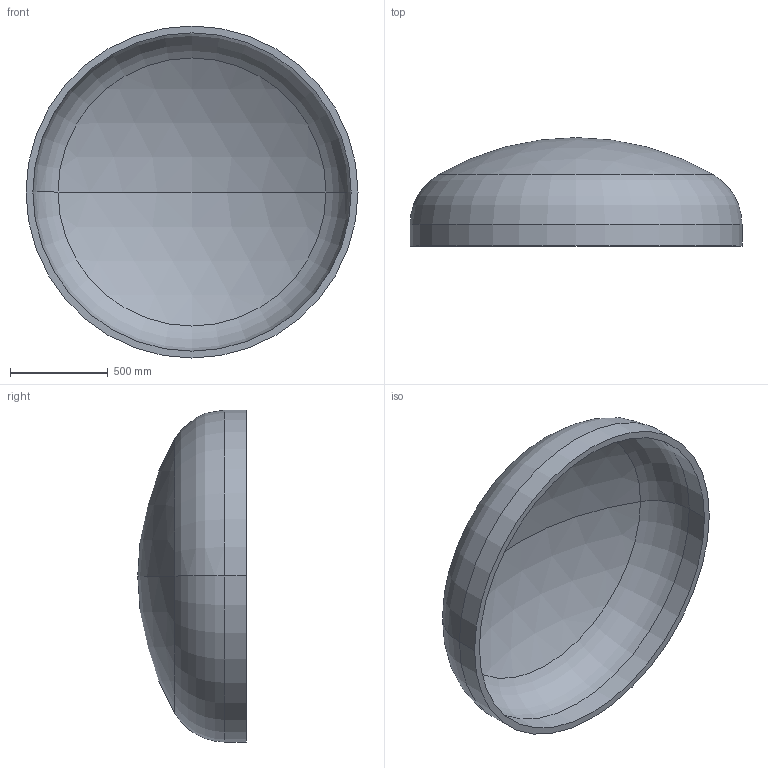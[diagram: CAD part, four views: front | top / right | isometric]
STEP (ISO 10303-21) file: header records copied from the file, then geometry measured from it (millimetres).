
FILE_DESCRIPTION (( 'STEP AP203' ), '1' );
FILE_NAME ('DIN 28013 Korbbogenform_-_Boden DIN 28013 - 1700 x 110 - I - s=35.step', '2016-07-01T11:47:13', ( '' ), ( '' ), 'SwSTEP 2.0', 'SolidWorks 2013', '' );
FILE_SCHEMA (( 'CONFIG_CONTROL_DESIGN' ));
Length unit declared in the file: millimetre
Products named in the file (1): DIN 28013 Korbbogenform_-_Boden DIN 28013 - 1700 x 110 - I - s=35
Bounding box: 1700 x 555.28 x 1700 mm (x, y, z)
Volume: 127078576.7 mm3; surface area: 7447272.6 mm2
Topology: 1 solids, 1 shells, 13 faces, 24 edges, 14 vertices
Faces by surface type: torus 4, cylinder 4, sphere 4, plane 1
Entity records: 407 total; most frequent: DIRECTION 72, CARTESIAN_POINT 52, ORIENTED_EDGE 48, AXIS2_PLACEMENT_3D 34, EDGE_CURVE 24, CIRCLE 20, EDGE_LOOP 14, VERTEX_POINT 14
